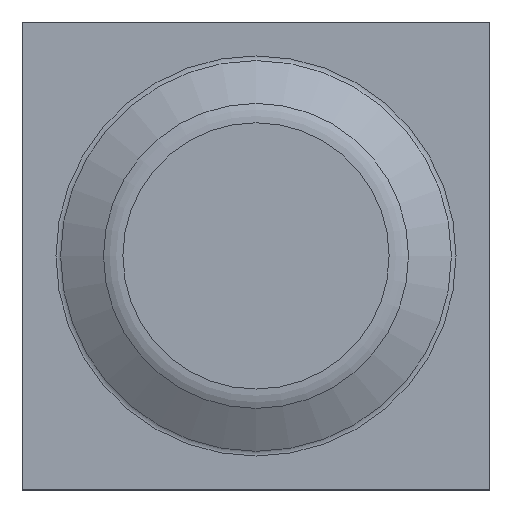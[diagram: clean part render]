
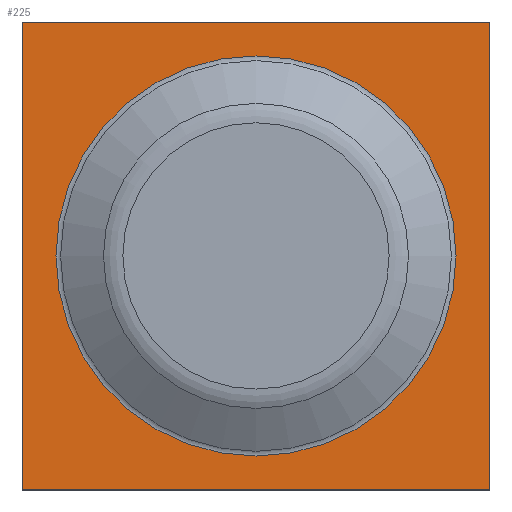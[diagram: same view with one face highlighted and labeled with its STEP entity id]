
A CAD part, top view. The second image highlights one B-rep face of the part: STEP entity #225.
In plain terms, the highlighted planar face has unit normal (0, 0, 1).
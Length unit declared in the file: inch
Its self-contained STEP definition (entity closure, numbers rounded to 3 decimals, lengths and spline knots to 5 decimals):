
#140=CARTESIAN_POINT('',(-8.24063,-0.313,9.237));
#141=VERTEX_POINT('',#140);
#142=CARTESIAN_POINT('',(-7.92,-0.63363,9.237));
#143=VERTEX_POINT('',#142);
#144=CARTESIAN_POINT('',(-7.92,-0.313,9.237));
#145=DIRECTION('',(0.,0.,1.));
#146=DIRECTION('',(1.,0.,0.));
#147=AXIS2_PLACEMENT_3D('',#144,#145,#146);
#148=CIRCLE('',#147,0.32063);
#149=EDGE_CURVE('',#141,#143,#148,.T.);
#172=EDGE_CURVE('',#143,#141,#148,.T.);
#182=CARTESIAN_POINT('',(-8.295,-0.688,9.237));
#183=VERTEX_POINT('',#182);
#184=CARTESIAN_POINT('',(-7.545,-0.688,9.237));
#185=VERTEX_POINT('',#184);
#186=CARTESIAN_POINT('',(0.,-0.688,9.237));
#187=DIRECTION('',(1.,0.,0.));
#188=VECTOR('',#187,1.);
#189=LINE('',#186,#188);
#190=EDGE_CURVE('',#183,#185,#189,.T.);
#191=ORIENTED_EDGE('',*,*,#190,.T.);
#192=CARTESIAN_POINT('',(-7.545,0.062,9.237));
#193=VERTEX_POINT('',#192);
#194=CARTESIAN_POINT('',(-7.545,0.,9.237));
#195=DIRECTION('',(0.,1.,0.));
#196=VECTOR('',#195,1.);
#197=LINE('',#194,#196);
#198=EDGE_CURVE('',#185,#193,#197,.T.);
#199=ORIENTED_EDGE('',*,*,#198,.T.);
#200=CARTESIAN_POINT('',(-8.295,0.062,9.237));
#201=VERTEX_POINT('',#200);
#202=CARTESIAN_POINT('',(0.,0.062,9.237));
#203=DIRECTION('',(-1.,0.,0.));
#204=VECTOR('',#203,1.);
#205=LINE('',#202,#204);
#206=EDGE_CURVE('',#193,#201,#205,.T.);
#207=ORIENTED_EDGE('',*,*,#206,.T.);
#208=CARTESIAN_POINT('',(-8.295,0.,9.237));
#209=DIRECTION('',(0.,-1.,0.));
#210=VECTOR('',#209,1.);
#211=LINE('',#208,#210);
#212=EDGE_CURVE('',#201,#183,#211,.T.);
#213=ORIENTED_EDGE('',*,*,#212,.T.);
#214=EDGE_LOOP('',(#191,#199,#207,#213));
#215=FACE_OUTER_BOUND('',#214,.T.);
#216=ORIENTED_EDGE('',*,*,#149,.F.);
#217=ORIENTED_EDGE('',*,*,#172,.F.);
#218=EDGE_LOOP('',(#216,#217));
#219=FACE_BOUND('',#218,.T.);
#220=CARTESIAN_POINT('',(0.,-9.113,9.237));
#221=DIRECTION('',(0.,0.,-1.));
#222=DIRECTION('',(1.,0.,0.));
#223=AXIS2_PLACEMENT_3D('',#220,#221,#222);
#224=PLANE('',#223);
#225=ADVANCED_FACE('',(#215,#219),#224,.F.);
